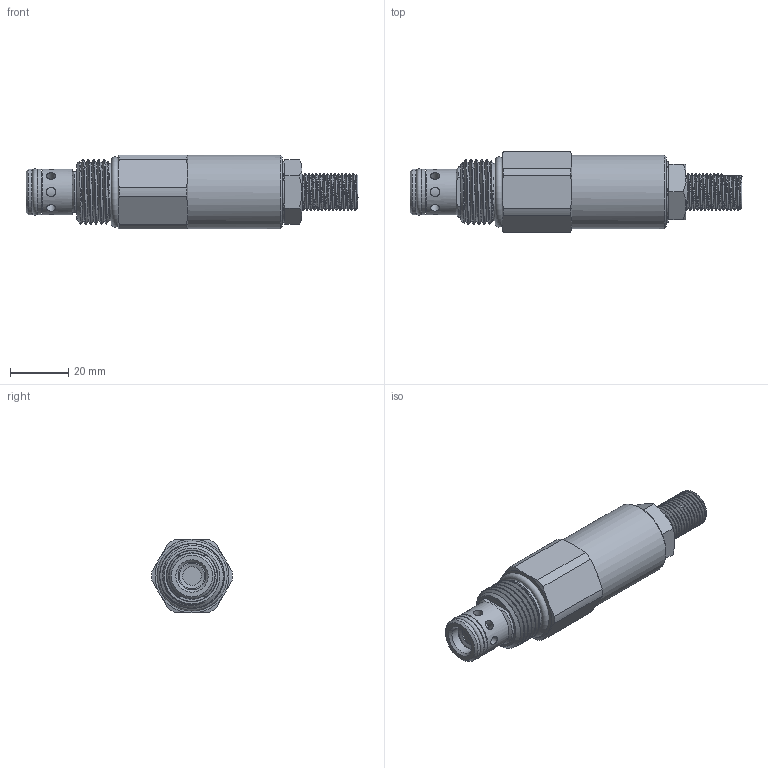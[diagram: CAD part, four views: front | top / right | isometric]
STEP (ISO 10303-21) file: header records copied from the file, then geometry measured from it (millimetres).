
FILE_DESCRIPTION(/* description */ ('DE-RVP-00-4000'),/* implementation_level */ '2;1');
FILE_NAME(/* name */ 'R:\Solids\Valve Solids exterior\Solids (.STEP)\DERVP00.stp',/* time_stamp */ '2023-11-13T13:05:50-06:00',/* author */ ('jared'),/* organization */ (''),/* preprocessor_version */ 'ST-DEVELOPER v17',/* originating_system */ 'Autodesk Inventor 2019',/* authorisation */ '');
FILE_SCHEMA (('AUTOMOTIVE_DESIGN { 1 0 10303 214 3 1 1 }'));
Length unit declared in the file: inch
Products named in the file (1): 85002155
Bounding box: 114.07 x 27.74 x 25.4 mm (x, y, z)
Volume: 41461.7 mm3; surface area: 10946.4 mm2
Topology: 1 solids, 1 shells, 185 faces, 582 edges, 418 vertices
Faces by surface type: cylinder 59, plane 57, cone 36, bspline 28, torus 5
Full cylindrical faces by diameter (mm): 3.175 x8, 6.35 x2, 9.515 x1, 9.53 x1, 12.7 x9, 12.992 x3, 15.684 x1, 15.761 x2, 19.621 x2, 20.701 x1, 22.225 x4, 25.4 x1
Entity records: 19127 total; most frequent: CARTESIAN_POINT 14295, ORIENTED_EDGE 1162, DIRECTION 709, EDGE_CURVE 581, VERTEX_POINT 418, AXIS2_PLACEMENT_3D 293, B_SPLINE_CURVE_WITH_KNOTS 269, EDGE_LOOP 208
